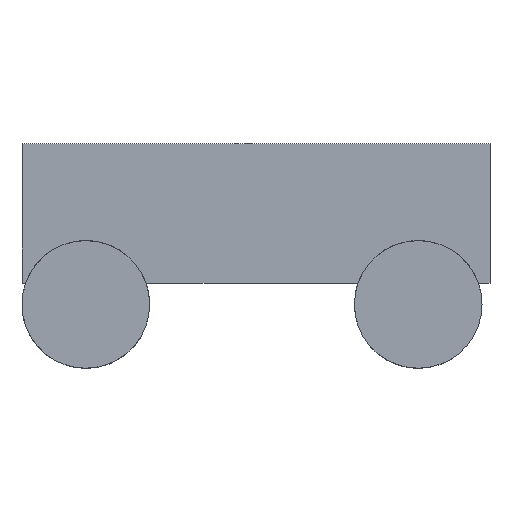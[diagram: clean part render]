
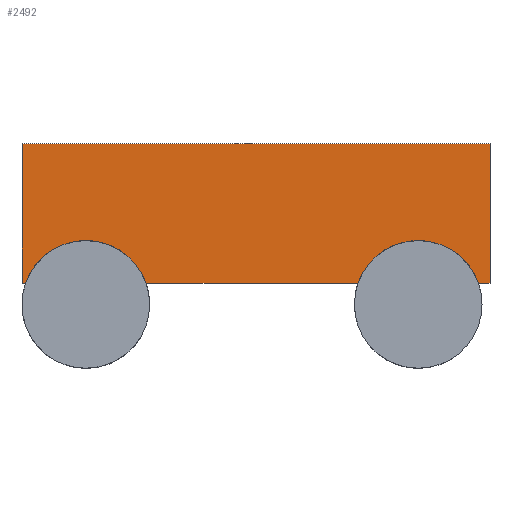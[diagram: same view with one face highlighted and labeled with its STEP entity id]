
A CAD part, top view. The second image highlights one B-rep face of the part: STEP entity #2492.
In plain terms, the highlighted planar face has unit normal (0, 0, 1).
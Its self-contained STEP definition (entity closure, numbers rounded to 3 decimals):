
#657 = PLANE('',#658);
#658 = AXIS2_PLACEMENT_3D('',#659,#660,#661);
#659 = CARTESIAN_POINT('',(13.2,-5.25,-4.));
#660 = DIRECTION('',(-0.,1.,0.));
#661 = DIRECTION('',(0.,0.,1.));
#740 = PLANE('',#741);
#741 = AXIS2_PLACEMENT_3D('',#742,#743,#744);
#742 = CARTESIAN_POINT('',(30.8,-5.25,-4.));
#743 = DIRECTION('',(1.,0.,-0.));
#744 = DIRECTION('',(0.,0.,1.));
#768 = PLANE('',#769);
#769 = AXIS2_PLACEMENT_3D('',#770,#771,#772);
#770 = CARTESIAN_POINT('',(13.2,0.,-4.));
#771 = DIRECTION('',(-0.,1.,0.));
#772 = DIRECTION('',(0.,0.,1.));
#796 = PLANE('',#797);
#797 = AXIS2_PLACEMENT_3D('',#798,#799,#800);
#798 = CARTESIAN_POINT('',(13.2,-5.25,-4.));
#799 = DIRECTION('',(1.,0.,-0.));
#800 = DIRECTION('',(0.,0.,1.));
#824 = PLANE('',#825);
#825 = AXIS2_PLACEMENT_3D('',#826,#827,#828);
#826 = CARTESIAN_POINT('',(13.2,-5.25,-4.));
#827 = DIRECTION('',(-0.,1.,0.));
#828 = DIRECTION('',(0.,0.,1.));
#853 = CYLINDRICAL_SURFACE('',#854,2.4);
#854 = AXIS2_PLACEMENT_3D('',#855,#856,#857);
#855 = CARTESIAN_POINT('',(15.6,-6.05,-6.5));
#856 = DIRECTION('',(0.,0.,1.));
#857 = DIRECTION('',(1.,0.,-0.));
#990 = CYLINDRICAL_SURFACE('',#991,2.4);
#991 = AXIS2_PLACEMENT_3D('',#992,#993,#994);
#992 = CARTESIAN_POINT('',(28.1,-6.05,-6.5));
#993 = DIRECTION('',(0.,0.,1.));
#994 = DIRECTION('',(1.,0.,-0.));
#1016 = PLANE('',#1017);
#1017 = AXIS2_PLACEMENT_3D('',#1018,#1019,#1020);
#1018 = CARTESIAN_POINT('',(13.2,-5.25,-4.));
#1019 = DIRECTION('',(-0.,1.,0.));
#1020 = DIRECTION('',(0.,0.,1.));
#1362 = VERTEX_POINT('',#1363);
#1363 = CARTESIAN_POINT('',(17.863,-5.25,-2.));
#1382 = EDGE_CURVE('',#1362,#1383,#1385,.T.);
#1383 = VERTEX_POINT('',#1384);
#1384 = CARTESIAN_POINT('',(25.837,-5.25,-2.));
#1385 = SURFACE_CURVE('',#1386,(#1390,#1397),.PCURVE_S1.);
#1386 = LINE('',#1387,#1388);
#1387 = CARTESIAN_POINT('',(13.2,-5.25,-2.));
#1388 = VECTOR('',#1389,1.);
#1389 = DIRECTION('',(1.,0.,-0.));
#1390 = PCURVE('',#657,#1391);
#1391 = DEFINITIONAL_REPRESENTATION('',(#1392),#1396);
#1392 = LINE('',#1393,#1394);
#1393 = CARTESIAN_POINT('',(2.,0.));
#1394 = VECTOR('',#1395,1.);
#1395 = DIRECTION('',(0.,1.));
#1396 = ( GEOMETRIC_REPRESENTATION_CONTEXT(2) 
PARAMETRIC_REPRESENTATION_CONTEXT() REPRESENTATION_CONTEXT('2D SPACE',''
  ) );
#1397 = PCURVE('',#1398,#1403);
#1398 = PLANE('',#1399);
#1399 = AXIS2_PLACEMENT_3D('',#1400,#1401,#1402);
#1400 = CARTESIAN_POINT('',(13.2,-5.25,-2.));
#1401 = DIRECTION('',(0.,0.,1.));
#1402 = DIRECTION('',(1.,0.,-0.));
#1403 = DEFINITIONAL_REPRESENTATION('',(#1404),#1408);
#1404 = LINE('',#1405,#1406);
#1405 = CARTESIAN_POINT('',(0.,0.));
#1406 = VECTOR('',#1407,1.);
#1407 = DIRECTION('',(1.,0.));
#1408 = ( GEOMETRIC_REPRESENTATION_CONTEXT(2) 
PARAMETRIC_REPRESENTATION_CONTEXT() REPRESENTATION_CONTEXT('2D SPACE',''
  ) );
#1678 = VERTEX_POINT('',#1679);
#1679 = CARTESIAN_POINT('',(30.8,-5.25,-2.));
#1702 = VERTEX_POINT('',#1703);
#1703 = CARTESIAN_POINT('',(30.8,0.,-2.));
#1724 = EDGE_CURVE('',#1678,#1702,#1725,.T.);
#1725 = SURFACE_CURVE('',#1726,(#1730,#1737),.PCURVE_S1.);
#1726 = LINE('',#1727,#1728);
#1727 = CARTESIAN_POINT('',(30.8,-5.25,-2.));
#1728 = VECTOR('',#1729,1.);
#1729 = DIRECTION('',(-0.,1.,0.));
#1730 = PCURVE('',#740,#1731);
#1731 = DEFINITIONAL_REPRESENTATION('',(#1732),#1736);
#1732 = LINE('',#1733,#1734);
#1733 = CARTESIAN_POINT('',(2.,0.));
#1734 = VECTOR('',#1735,1.);
#1735 = DIRECTION('',(0.,-1.));
#1736 = ( GEOMETRIC_REPRESENTATION_CONTEXT(2) 
PARAMETRIC_REPRESENTATION_CONTEXT() REPRESENTATION_CONTEXT('2D SPACE',''
  ) );
#1737 = PCURVE('',#1398,#1738);
#1738 = DEFINITIONAL_REPRESENTATION('',(#1739),#1743);
#1739 = LINE('',#1740,#1741);
#1740 = CARTESIAN_POINT('',(17.6,0.));
#1741 = VECTOR('',#1742,1.);
#1742 = DIRECTION('',(0.,1.));
#1743 = ( GEOMETRIC_REPRESENTATION_CONTEXT(2) 
PARAMETRIC_REPRESENTATION_CONTEXT() REPRESENTATION_CONTEXT('2D SPACE',''
  ) );
#1750 = VERTEX_POINT('',#1751);
#1751 = CARTESIAN_POINT('',(30.363,-5.25,-2.));
#1770 = EDGE_CURVE('',#1750,#1678,#1771,.T.);
#1771 = SURFACE_CURVE('',#1772,(#1776,#1783),.PCURVE_S1.);
#1772 = LINE('',#1773,#1774);
#1773 = CARTESIAN_POINT('',(13.2,-5.25,-2.));
#1774 = VECTOR('',#1775,1.);
#1775 = DIRECTION('',(1.,0.,-0.));
#1776 = PCURVE('',#1016,#1777);
#1777 = DEFINITIONAL_REPRESENTATION('',(#1778),#1782);
#1778 = LINE('',#1779,#1780);
#1779 = CARTESIAN_POINT('',(2.,0.));
#1780 = VECTOR('',#1781,1.);
#1781 = DIRECTION('',(0.,1.));
#1782 = ( GEOMETRIC_REPRESENTATION_CONTEXT(2) 
PARAMETRIC_REPRESENTATION_CONTEXT() REPRESENTATION_CONTEXT('2D SPACE',''
  ) );
#1783 = PCURVE('',#1398,#1784);
#1784 = DEFINITIONAL_REPRESENTATION('',(#1785),#1789);
#1785 = LINE('',#1786,#1787);
#1786 = CARTESIAN_POINT('',(0.,0.));
#1787 = VECTOR('',#1788,1.);
#1788 = DIRECTION('',(1.,0.));
#1789 = ( GEOMETRIC_REPRESENTATION_CONTEXT(2) 
PARAMETRIC_REPRESENTATION_CONTEXT() REPRESENTATION_CONTEXT('2D SPACE',''
  ) );
#1850 = EDGE_CURVE('',#1750,#1383,#1851,.T.);
#1851 = SURFACE_CURVE('',#1852,(#1857,#1864),.PCURVE_S1.);
#1852 = CIRCLE('',#1853,2.4);
#1853 = AXIS2_PLACEMENT_3D('',#1854,#1855,#1856);
#1854 = CARTESIAN_POINT('',(28.1,-6.05,-2.));
#1855 = DIRECTION('',(0.,0.,1.));
#1856 = DIRECTION('',(1.,0.,-0.));
#1857 = PCURVE('',#990,#1858);
#1858 = DEFINITIONAL_REPRESENTATION('',(#1859),#1863);
#1859 = LINE('',#1860,#1861);
#1860 = CARTESIAN_POINT('',(0.,4.5));
#1861 = VECTOR('',#1862,1.);
#1862 = DIRECTION('',(1.,0.));
#1863 = ( GEOMETRIC_REPRESENTATION_CONTEXT(2) 
PARAMETRIC_REPRESENTATION_CONTEXT() REPRESENTATION_CONTEXT('2D SPACE',''
  ) );
#1864 = PCURVE('',#1398,#1865);
#1865 = DEFINITIONAL_REPRESENTATION('',(#1866),#1870);
#1866 = CIRCLE('',#1867,2.4);
#1867 = AXIS2_PLACEMENT_2D('',#1868,#1869);
#1868 = CARTESIAN_POINT('',(14.9,-0.8));
#1869 = DIRECTION('',(1.,0.));
#1870 = ( GEOMETRIC_REPRESENTATION_CONTEXT(2) 
PARAMETRIC_REPRESENTATION_CONTEXT() REPRESENTATION_CONTEXT('2D SPACE',''
  ) );
#2212 = EDGE_CURVE('',#1362,#2213,#2215,.T.);
#2213 = VERTEX_POINT('',#2214);
#2214 = CARTESIAN_POINT('',(13.337,-5.25,-2.));
#2215 = SURFACE_CURVE('',#2216,(#2221,#2228),.PCURVE_S1.);
#2216 = CIRCLE('',#2217,2.4);
#2217 = AXIS2_PLACEMENT_3D('',#2218,#2219,#2220);
#2218 = CARTESIAN_POINT('',(15.6,-6.05,-2.));
#2219 = DIRECTION('',(0.,0.,1.));
#2220 = DIRECTION('',(1.,0.,-0.));
#2221 = PCURVE('',#853,#2222);
#2222 = DEFINITIONAL_REPRESENTATION('',(#2223),#2227);
#2223 = LINE('',#2224,#2225);
#2224 = CARTESIAN_POINT('',(0.,4.5));
#2225 = VECTOR('',#2226,1.);
#2226 = DIRECTION('',(1.,0.));
#2227 = ( GEOMETRIC_REPRESENTATION_CONTEXT(2) 
PARAMETRIC_REPRESENTATION_CONTEXT() REPRESENTATION_CONTEXT('2D SPACE',''
  ) );
#2228 = PCURVE('',#1398,#2229);
#2229 = DEFINITIONAL_REPRESENTATION('',(#2230),#2234);
#2230 = CIRCLE('',#2231,2.4);
#2231 = AXIS2_PLACEMENT_2D('',#2232,#2233);
#2232 = CARTESIAN_POINT('',(2.4,-0.8));
#2233 = DIRECTION('',(1.,0.));
#2234 = ( GEOMETRIC_REPRESENTATION_CONTEXT(2) 
PARAMETRIC_REPRESENTATION_CONTEXT() REPRESENTATION_CONTEXT('2D SPACE',''
  ) );
#2284 = VERTEX_POINT('',#2285);
#2285 = CARTESIAN_POINT('',(13.2,-5.25,-2.));
#2306 = EDGE_CURVE('',#2284,#2213,#2307,.T.);
#2307 = SURFACE_CURVE('',#2308,(#2312,#2319),.PCURVE_S1.);
#2308 = LINE('',#2309,#2310);
#2309 = CARTESIAN_POINT('',(13.2,-5.25,-2.));
#2310 = VECTOR('',#2311,1.);
#2311 = DIRECTION('',(1.,0.,-0.));
#2312 = PCURVE('',#824,#2313);
#2313 = DEFINITIONAL_REPRESENTATION('',(#2314),#2318);
#2314 = LINE('',#2315,#2316);
#2315 = CARTESIAN_POINT('',(2.,0.));
#2316 = VECTOR('',#2317,1.);
#2317 = DIRECTION('',(0.,1.));
#2318 = ( GEOMETRIC_REPRESENTATION_CONTEXT(2) 
PARAMETRIC_REPRESENTATION_CONTEXT() REPRESENTATION_CONTEXT('2D SPACE',''
  ) );
#2319 = PCURVE('',#1398,#2320);
#2320 = DEFINITIONAL_REPRESENTATION('',(#2321),#2325);
#2321 = LINE('',#2322,#2323);
#2322 = CARTESIAN_POINT('',(0.,0.));
#2323 = VECTOR('',#2324,1.);
#2324 = DIRECTION('',(1.,0.));
#2325 = ( GEOMETRIC_REPRESENTATION_CONTEXT(2) 
PARAMETRIC_REPRESENTATION_CONTEXT() REPRESENTATION_CONTEXT('2D SPACE',''
  ) );
#2334 = VERTEX_POINT('',#2335);
#2335 = CARTESIAN_POINT('',(13.2,0.,-2.));
#2356 = EDGE_CURVE('',#2284,#2334,#2357,.T.);
#2357 = SURFACE_CURVE('',#2358,(#2362,#2369),.PCURVE_S1.);
#2358 = LINE('',#2359,#2360);
#2359 = CARTESIAN_POINT('',(13.2,-5.25,-2.));
#2360 = VECTOR('',#2361,1.);
#2361 = DIRECTION('',(-0.,1.,0.));
#2362 = PCURVE('',#796,#2363);
#2363 = DEFINITIONAL_REPRESENTATION('',(#2364),#2368);
#2364 = LINE('',#2365,#2366);
#2365 = CARTESIAN_POINT('',(2.,0.));
#2366 = VECTOR('',#2367,1.);
#2367 = DIRECTION('',(0.,-1.));
#2368 = ( GEOMETRIC_REPRESENTATION_CONTEXT(2) 
PARAMETRIC_REPRESENTATION_CONTEXT() REPRESENTATION_CONTEXT('2D SPACE',''
  ) );
#2369 = PCURVE('',#1398,#2370);
#2370 = DEFINITIONAL_REPRESENTATION('',(#2371),#2375);
#2371 = LINE('',#2372,#2373);
#2372 = CARTESIAN_POINT('',(0.,0.));
#2373 = VECTOR('',#2374,1.);
#2374 = DIRECTION('',(0.,1.));
#2375 = ( GEOMETRIC_REPRESENTATION_CONTEXT(2) 
PARAMETRIC_REPRESENTATION_CONTEXT() REPRESENTATION_CONTEXT('2D SPACE',''
  ) );
#2382 = EDGE_CURVE('',#2334,#1702,#2383,.T.);
#2383 = SURFACE_CURVE('',#2384,(#2388,#2395),.PCURVE_S1.);
#2384 = LINE('',#2385,#2386);
#2385 = CARTESIAN_POINT('',(13.2,0.,-2.));
#2386 = VECTOR('',#2387,1.);
#2387 = DIRECTION('',(1.,0.,-0.));
#2388 = PCURVE('',#768,#2389);
#2389 = DEFINITIONAL_REPRESENTATION('',(#2390),#2394);
#2390 = LINE('',#2391,#2392);
#2391 = CARTESIAN_POINT('',(2.,0.));
#2392 = VECTOR('',#2393,1.);
#2393 = DIRECTION('',(0.,1.));
#2394 = ( GEOMETRIC_REPRESENTATION_CONTEXT(2) 
PARAMETRIC_REPRESENTATION_CONTEXT() REPRESENTATION_CONTEXT('2D SPACE',''
  ) );
#2395 = PCURVE('',#1398,#2396);
#2396 = DEFINITIONAL_REPRESENTATION('',(#2397),#2401);
#2397 = LINE('',#2398,#2399);
#2398 = CARTESIAN_POINT('',(0.,5.25));
#2399 = VECTOR('',#2400,1.);
#2400 = DIRECTION('',(1.,0.));
#2401 = ( GEOMETRIC_REPRESENTATION_CONTEXT(2) 
PARAMETRIC_REPRESENTATION_CONTEXT() REPRESENTATION_CONTEXT('2D SPACE',''
  ) );
#2492 = ADVANCED_FACE('',(#2493),#1398,.T.);
#2493 = FACE_BOUND('',#2494,.T.);
#2494 = EDGE_LOOP('',(#2495,#2496,#2497,#2498,#2499,#2500,#2501,#2502));
#2495 = ORIENTED_EDGE('',*,*,#1724,.T.);
#2496 = ORIENTED_EDGE('',*,*,#2382,.F.);
#2497 = ORIENTED_EDGE('',*,*,#2356,.F.);
#2498 = ORIENTED_EDGE('',*,*,#2306,.T.);
#2499 = ORIENTED_EDGE('',*,*,#2212,.F.);
#2500 = ORIENTED_EDGE('',*,*,#1382,.T.);
#2501 = ORIENTED_EDGE('',*,*,#1850,.F.);
#2502 = ORIENTED_EDGE('',*,*,#1770,.T.);
